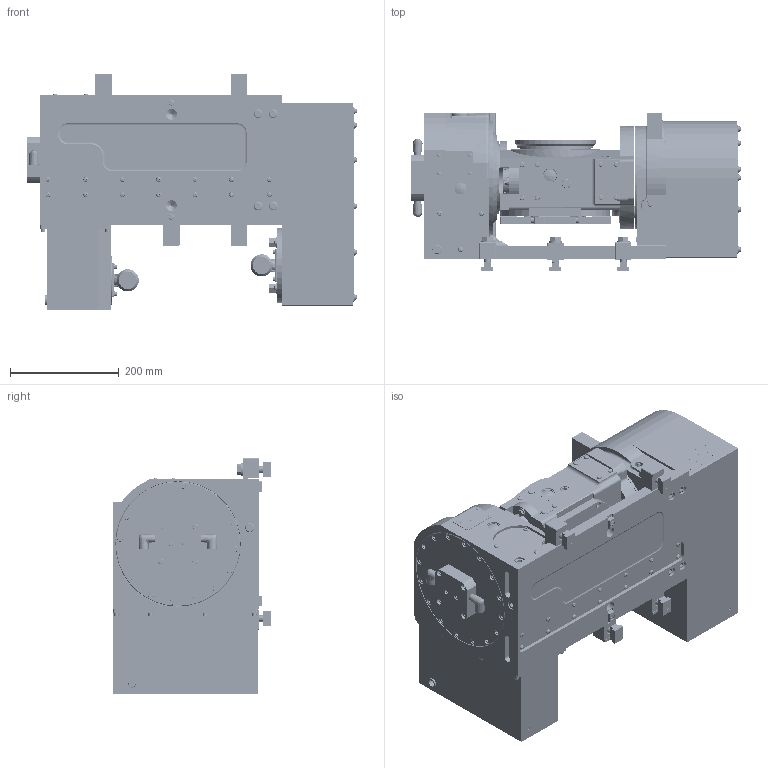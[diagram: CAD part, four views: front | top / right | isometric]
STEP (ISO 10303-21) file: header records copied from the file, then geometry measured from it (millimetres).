
FILE_DESCRIPTION (( 'STEP AP214' ), '1' );
FILE_NAME ('亂宖嵹梡亃TT150QuinteRJ晅.STEP', '2019-10-15T05:44:18', ( '' ), ( '' ), 'SwSTEP 2.0', 'SolidWorks 2017', '' );
FILE_SCHEMA (( 'AUTOMOTIVE_DESIGN' ));
Length unit declared in the file: millimetre
Products named in the file (17): コネクタプレート(61E4463882); モータケース(61E2696923)TT150AVR00; モータケース(61E2696781)TT150AVR00; BASE_RJ(61E114920)TT150A01_GB14; 亂宖嵹梡亃TT150QuinteRJ晅; CLAMPING PARTS(61E444176)TT181D3; Tスロットナット１４１２; Wヒラ　パーカ12; B 8.8 パーカ M12×55; クランプ(61E444174)TT150AE-04; TABLE_RJ(61E819648)TT150A01; BODY_RJ(61E114919)TT150A01; BASE_TT150AVR; 働乕僽儖N29ZSZ2562; キタガワシール; SMC KQ2E06-02
Assembly tree (21 placements, depth 3):
  亂宖嵹梡亃TT150QuinteRJ晅
    BASE_TT150AVR
      BASE_RJ(61E114920)TT150A01_GB14
      モータケース(61E2696781)TT150AVR00
      モータケース(61E2696923)TT150AVR00
      コネクタプレート(61E4463882)
      SMC KQ2E06-02  x2
      キタガワシール
      働乕僽儖N29ZSZ2562  x2
    BODY_RJ(61E114919)TT150A01
      BODY_RJ(61E114919)TT150A01
    TABLE_RJ(61E819648)TT150A01
    CLAMPING PARTS(61E444176)TT181D3  x4
      クランプ(61E444174)TT150AE-04
      B 8.8 パーカ M12×55
      Wヒラ　パーカ12
      Tスロットナット１４１２
Bounding box: 605.8 x 292 x 434 mm (x, y, z)
Volume: 35923321.1 mm3; surface area: 1872379.4 mm2
Topology: 31 solids, 180 shells, 6736 faces, 15800 edges, 9989 vertices
Faces by surface type: plane 3948, cylinder 1824, cone 698, torus 160, sphere 66, bspline 40
Entity records: 190537 total; most frequent: CARTESIAN_POINT 36894, DIRECTION 31947, ORIENTED_EDGE 29896, EDGE_CURVE 14948, AXIS2_PLACEMENT_3D 10957, LINE 10033, VECTOR 10033, VERTEX_POINT 9541
